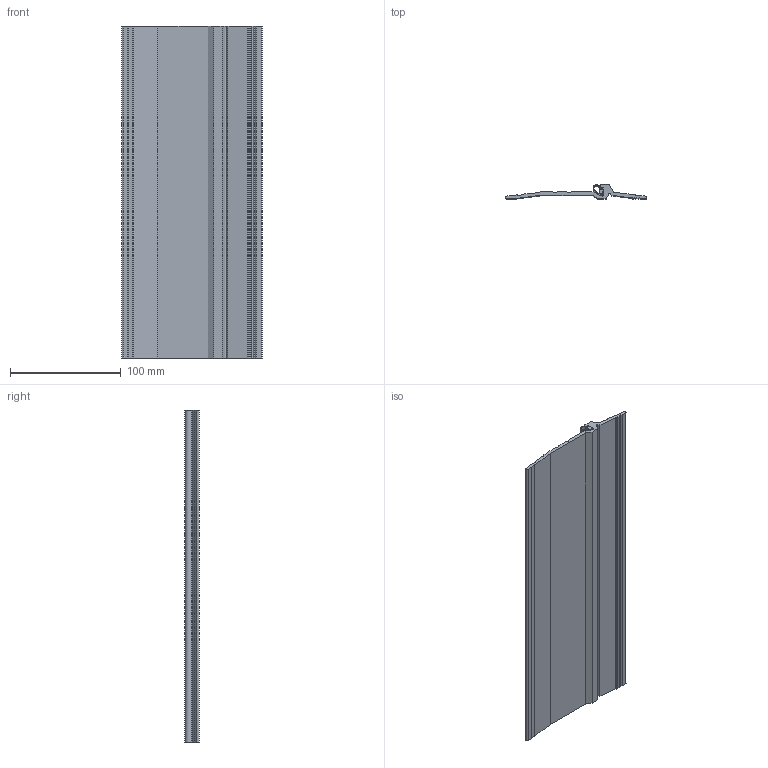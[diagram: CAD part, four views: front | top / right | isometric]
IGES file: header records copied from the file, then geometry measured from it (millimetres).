
Global section: file name: No Iges File Name specified; native system: Autodesk Inventor 2012; preprocessor: AutoDesk Inventor Iges Exporter R2012; author: anna.b; date: 20130821.152427; units: millimetre
Bounding box: 127 x 12.87 x 300 mm (x, y, z)
Volume: 141488.8 mm3; surface area: 105843.1 mm2
Topology: 2 solids, 2 shells, 85 faces, 243 edges, 162 vertices
Faces by surface type: plane 61, revolution 13, cylinder 11
